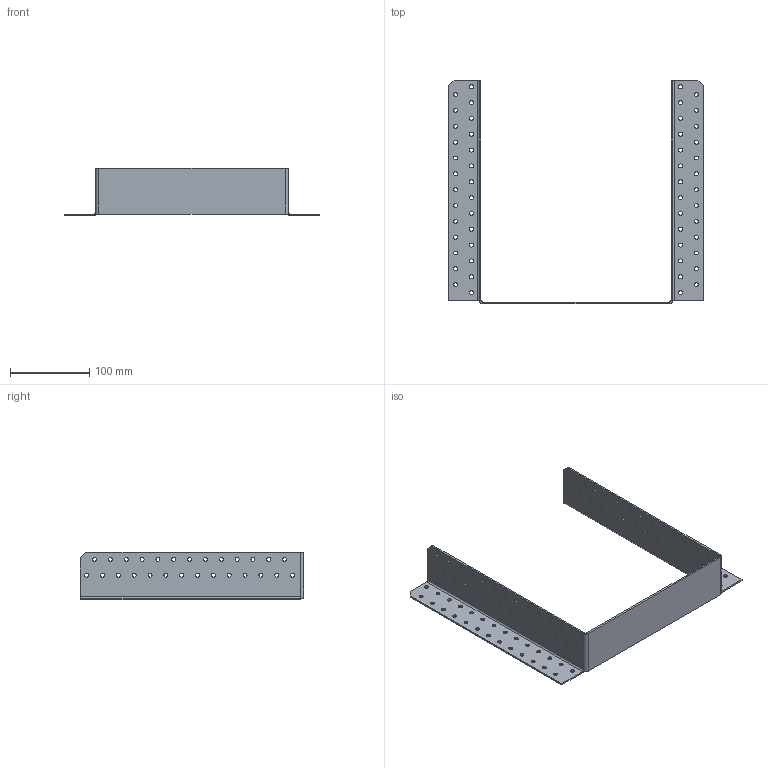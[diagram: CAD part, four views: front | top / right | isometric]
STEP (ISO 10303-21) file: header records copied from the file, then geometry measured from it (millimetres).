
FILE_DESCRIPTION (( 'STEP AP203' ), '1' );
FILE_NAME ('405332.STEP', '2021-04-17T18:12:04', ( '' ), ( '' ), 'SwSTEP 2.0', 'SolidWorks 2013', '' );
FILE_SCHEMA (( 'CONFIG_CONTROL_DESIGN' ));
Length unit declared in the file: millimetre
Products named in the file (1): 405332
Bounding box: 322 x 282 x 60 mm (x, y, z)
Volume: 132688.3 mm3; surface area: 139805.2 mm2
Topology: 1 solids, 1 shells, 260 faces, 744 edges, 486 vertices
Faces by surface type: cylinder 224, plane 36
Entity records: 9227 total; most frequent: DIRECTION 1716, CARTESIAN_POINT 1491, ORIENTED_EDGE 1488, EDGE_CURVE 744, AXIS2_PLACEMENT_3D 711, VERTEX_POINT 486, EDGE_LOOP 476, CIRCLE 450
